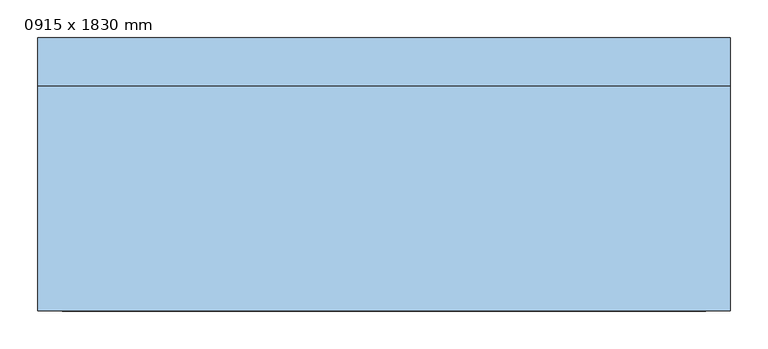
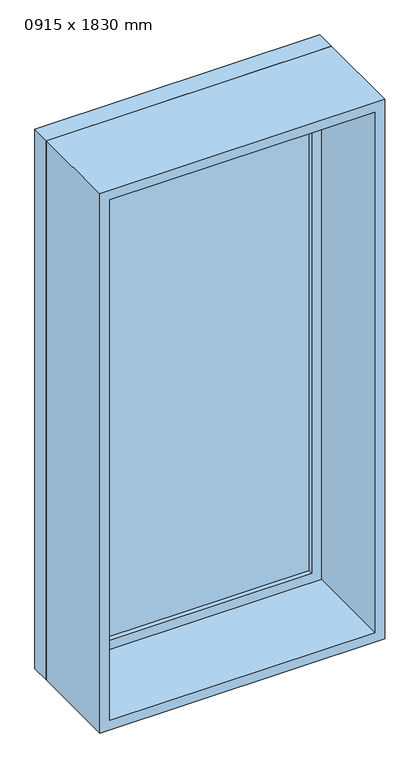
"""IFC4 building model written with IfcOpenShell, lengths in millimetres: window geometry, M_固定 : 0915 x 1830 mm."""

from ifc_helpers import new_model, si_unit, frame, origin, place, context, project, spatial, polyline, outline, extrude, source, transform, mapped, element, save


def window_0915_x_1830_mm_04d2c2f2(model_context):
    return source(origin(), model_context, "Body", "SweptSolid", [
        extrude(outline(polyline([(-394.5, 158.4291587), (394.5, 158.4291587), (394.5, 146.4291587), (-394.5, 146.4291587), (-394.5, 158.4291587)])), frame((0.0, 0.0, 368.0), z_axis=(0.0, 0.0, 1.0), x_axis=(1.0, 0.0, 0.0)), (0.0, 0.0, 1.0), 1704.0),
        extrude(outline(polyline([(2116.0, -438.5), (324.0, -438.5), (324.0, 438.5), (2116.0, 438.5), (2116.0, -438.5)]), holes=[polyline([(2072.0, -394.5), (2072.0, 394.5), (368.0, 394.5), (368.0, -394.5), (2072.0, -394.5)])]), frame((0.0, 130.4291587, 0.0), z_axis=(0.0, 1.0, 0.0), x_axis=(0.0, 0.0, 1.0)), (0.0, 0.0, 1.0), 44.0),
        extrude(outline(polyline([(2135.0, -457.5), (305.0, -457.5), (305.0, 457.5), (2135.0, 457.5), (2135.0, -457.5)]), holes=[polyline([(2116.0, -438.5), (2116.0, 438.5), (324.0, 438.5), (324.0, -438.5), (2116.0, -438.5)])]), frame((0.0, 130.4291587, 0.0), z_axis=(0.0, 1.0, 0.0), x_axis=(0.0, 0.0, 1.0)), (0.0, 0.0, 1.0), 63.0),
        extrude(outline(polyline([(2135.0, -457.5), (305.0, -457.5), (305.0, 457.5), (2135.0, 457.5), (2135.0, -457.5)]), holes=[polyline([(2103.0, -425.5), (2103.0, 425.5), (337.0, 425.5), (337.0, -425.5), (2103.0, -425.5)])]), frame((0.0, -167.4291587, 0.0), z_axis=(0.0, 1.0, 0.0), x_axis=(0.0, 0.0, 1.0)), (0.0, 0.0, 1.0), 297.8583175),
    ])


if __name__ == "__main__":
    model = new_model("IFC4")
    model_context = context("Model", 3, world=origin())
    ifc_project = project(units=[si_unit("LENGTHUNIT", "METRE", prefix="MILLI")], contexts=[model_context])
    site = spatial("IfcSite", under=ifc_project)
    building = spatial("IfcBuilding", under=site)
    placement = place(None, origin())
    window_0915_x_1830_mm_shape = window_0915_x_1830_mm_04d2c2f2(model_context)
    element("IfcWindow", 1, ObjectType="M_固定 : 0915 x 1830 mm", at=placement, inside=building, context=model_context, shape_type="MappedRepresentation", body=[
        mapped(window_0915_x_1830_mm_shape, transform((0.0, 0.0, 0.0), x_axis=(1.0, 0.0, 0.0), y_axis=(0.0, 1.0, 0.0), z_axis=(0.0, 0.0, 1.0))),
    ])
    save(model, "model.ifc")
